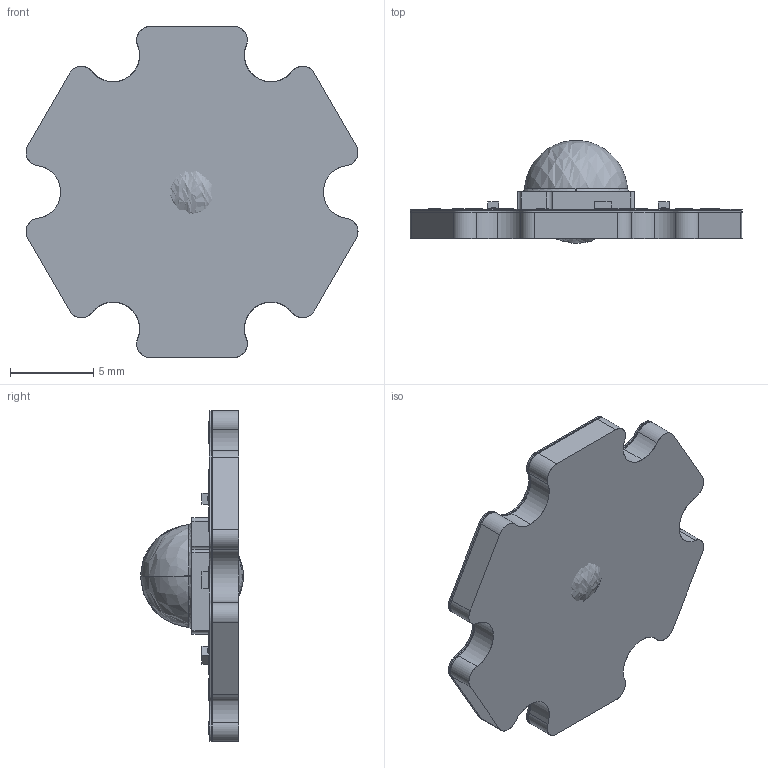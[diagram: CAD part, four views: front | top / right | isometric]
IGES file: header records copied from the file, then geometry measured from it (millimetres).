
Start section: SolidWorks IGES file using analytic representation for surfaces
Global section: file name: C:\P-Gold\Projects\MCPCBs\For_07x07_04die_LZ4\1900-0062-BGQ\Applications\LZ4-20XX00-P3_LZ4-4Chan-MCPCB_RevA3.IGS; native system: SolidWorks 2011; preprocessor: SolidWorks 2011; author: dadebiyi; date: 121114.091800; units: millimetre
Bounding box: 19.97 x 6.19 x 19.9 mm (x, y, z)
Surface area: 2377.9 mm2 (no closed solid volume)
Topology: 0 solids, 0 shells, 1145 faces, 8872 edges, 8866 vertices
Faces by surface type: bspline 973, revolution 172
